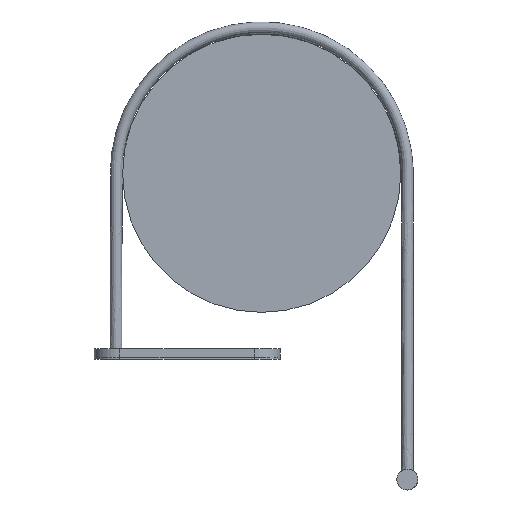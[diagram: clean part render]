
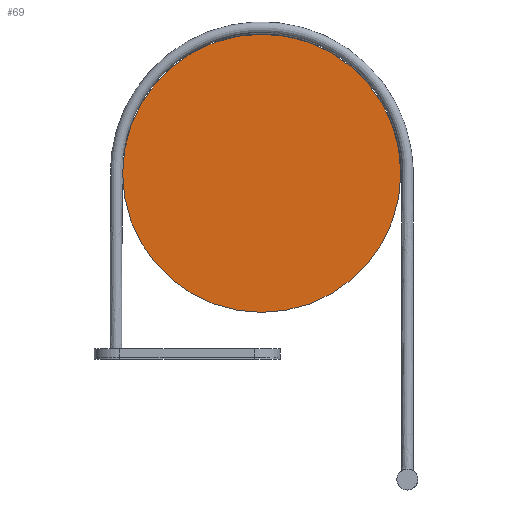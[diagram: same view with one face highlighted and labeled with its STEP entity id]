
A CAD part, front view. The second image highlights one B-rep face of the part: STEP entity #69.
In plain terms, the highlighted planar face has unit normal (0, -1, 0).
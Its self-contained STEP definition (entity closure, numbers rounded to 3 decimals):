
#69=ADVANCED_FACE('',(#95),#401,.T.);
#95=FACE_OUTER_BOUND('',#121,.T.);
#121=EDGE_LOOP('',(#151,#152));
#151=ORIENTED_EDGE('',*,*,#243,.F.);
#152=ORIENTED_EDGE('',*,*,#240,.F.);
#240=EDGE_CURVE('',#356,#358,#316,.T.);
#243=EDGE_CURVE('',#358,#356,#318,.T.);
#316=TRIMMED_CURVE($,#336,(#643),(#644),.T.,.CARTESIAN.);
#318=TRIMMED_CURVE($,#338,(#651),(#652),.T.,.CARTESIAN.);
#336=CIRCLE('',#517,300.);
#338=CIRCLE('',#519,300.);
#356=VERTEX_POINT('',#634);
#358=VERTEX_POINT('',#636);
#401=PLANE('',#514);
#514=AXIS2_PLACEMENT_3D('',#631,#562,$);
#517=AXIS2_PLACEMENT_3D($,#642,#566,#567);
#519=AXIS2_PLACEMENT_3D($,#650,#570,#571);
#562=DIRECTION('',(0.,-1.,0.));
#566=DIRECTION('',(0.,1.,0.));
#567=DIRECTION('',(1.,0.,0.));
#570=DIRECTION('',(0.,1.,0.));
#571=DIRECTION('',(-1.,0.,0.));
#631=CARTESIAN_POINT('',(-680.39,72.5,306.203));
#634=CARTESIAN_POINT('',(-5.39,72.5,681.203));
#636=CARTESIAN_POINT('',(-605.39,72.5,681.203));
#642=CARTESIAN_POINT('',(-305.39,72.5,681.203));
#643=CARTESIAN_POINT('',(-5.39,72.5,681.203));
#644=CARTESIAN_POINT('',(-605.39,72.5,681.203));
#650=CARTESIAN_POINT('',(-305.39,72.5,681.203));
#651=CARTESIAN_POINT('',(-605.39,72.5,681.203));
#652=CARTESIAN_POINT('',(-5.39,72.5,681.203));
